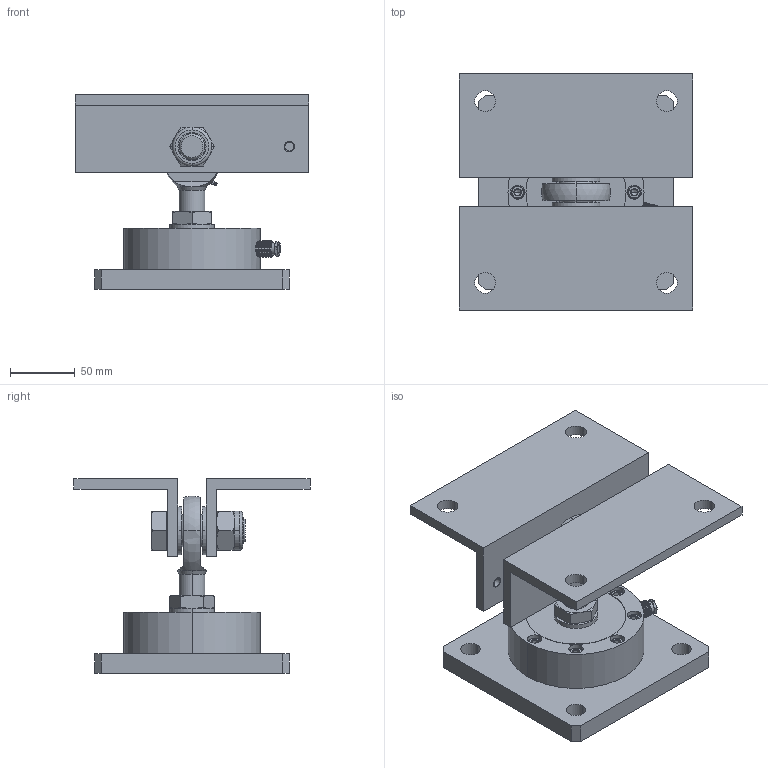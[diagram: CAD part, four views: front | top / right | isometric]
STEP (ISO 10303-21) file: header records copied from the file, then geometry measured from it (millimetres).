
FILE_DESCRIPTION((''),'1');
FILE_NAME('LMLAK_standard.step','2020-07-06T15:18:45',(''),(''),'','','');
FILE_SCHEMA(('AUTOMOTIVE_DESIGN { 1 0 10303 214 1 1 1 1 }'));
Products named in the file (16): LMLAK standard; LMLAK screw 01; LMLAK screw 03; LMLAK nut 01; LMLAK part 02; LMLAK part 03; LMLAK body 01; LMLAK part 04; LMLAK part 05; LMLAK nut 02; LMLAK part 06; LMLAK part 07; LMLAK load cell 01; LMLAK body 03; LMLAK cable gland 01; LMLAK plate 01
Assembly tree (25 placements, depth 4):
  LMLAK standard
    LMLAK screw 01
    LMLAK screw 03  x2
    LMLAK nut 01
    LMLAK part 02  x2
    LMLAK part 03
      LMLAK body 01
      LMLAK part 04
      LMLAK part 05
    LMLAK nut 02
    LMLAK load cell 01
      LMLAK part 06
        LMLAK part 07  x9
      LMLAK body 03
      LMLAK cable gland 01
      LMLAK plate 01
Bounding box: 180 x 182 x 150 mm (x, y, z)
Volume: 1042647.7 mm3; surface area: 240844 mm2
Topology: 22 solids, 24 shells, 784 faces, 1791 edges, 1063 vertices
Faces by surface type: cone 254, plane 239, cylinder 178, torus 108, sphere 2, bspline 2, offset 1
Entity records: 14275 total; most frequent: CARTESIAN_POINT 3529, DIRECTION 2316, ORIENTED_EDGE 1978, EDGE_CURVE 991, AXIS2_PLACEMENT_3D 986, VERTEX_POINT 597, EDGE_LOOP 530, CIRCLE 513
